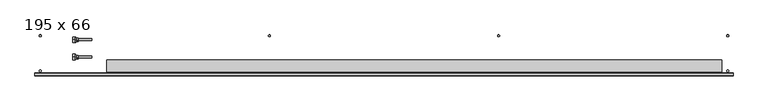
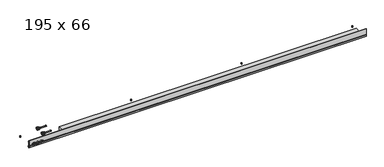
"""IFC4 building model written with IfcOpenShell, lengths in millimetres: proxy geometry, Mohlenhof_Внутрипольный конвектор_QSKM : 195 x 66."""

from ifc_helpers import new_model, si_unit, point, frame, frame_2d, origin, place, context, project, spatial, polyline, circle_curve, ellipse_curve, trimmed, segment, composite_curve, outline, extrude, source, transform, mapped, element, save
from ifc_brep_helpers import plane_surface, cylinder_surface, revolved_surface, advanced_brep


def proxy_195_x_66_55b345ae(model_context):
    return source(origin(), model_context, "Body", "SolidModel", [
        extrude(outline(composite_curve([segment(trimmed(circle_curve(frame_2d((-491.6666667, -273.5)), 4.5), [point((-496.1666667, -273.5))], [point((-487.1666667, -273.5))], False, "CARTESIAN"), True, "CONTINUOUS"), segment(trimmed(circle_curve(frame_2d((-491.6666667, -273.5)), 4.5), [point((-487.1666667, -273.5))], [point((-496.1666667, -273.5))], False, "CARTESIAN"), True, "CONTINUOUS")], self_intersect=False)), frame((0.0, 0.0, -79.0), z_axis=(0.0, 0.0, 1.0), x_axis=(1.0, 0.0, 0.0)), (0.0, 0.0, 1.0), 7.0),
        extrude(outline(composite_curve([segment(trimmed(circle_curve(frame_2d((-491.6666667, -273.5)), 4.0), [point((-495.6666667, -273.5))], [point((-487.6666667, -273.5))], False, "CARTESIAN"), True, "CONTINUOUS"), segment(trimmed(circle_curve(frame_2d((-491.6666667, -273.5)), 4.0), [point((-487.6666667, -273.5))], [point((-495.6666667, -273.5))], False, "CARTESIAN"), True, "CONTINUOUS")], self_intersect=False)), frame((0.0, 0.0, -72.0), z_axis=(0.0, 0.0, 1.0), x_axis=(1.0, 0.0, 0.0)), (0.0, 0.0, 1.0), 1.5),
        extrude(outline(composite_curve([segment(trimmed(circle_curve(frame_2d((491.6666667, -273.5)), 4.5), [point((487.1666667, -273.5))], [point((496.1666667, -273.5))], False, "CARTESIAN"), True, "CONTINUOUS"), segment(trimmed(circle_curve(frame_2d((491.6666667, -273.5)), 4.5), [point((496.1666667, -273.5))], [point((487.1666667, -273.5))], False, "CARTESIAN"), True, "CONTINUOUS")], self_intersect=False)), frame((0.0, 0.0, -79.0), z_axis=(0.0, 0.0, 1.0), x_axis=(1.0, 0.0, 0.0)), (0.0, 0.0, 1.0), 7.0),
        extrude(outline(composite_curve([segment(trimmed(circle_curve(frame_2d((491.6666667, -273.5)), 4.0), [point((487.6666667, -273.5))], [point((495.6666667, -273.5))], False, "CARTESIAN"), True, "CONTINUOUS"), segment(trimmed(circle_curve(frame_2d((491.6666667, -273.5)), 4.0), [point((495.6666667, -273.5))], [point((487.6666667, -273.5))], False, "CARTESIAN"), True, "CONTINUOUS")], self_intersect=False)), frame((0.0, 0.0, -72.0), z_axis=(0.0, 0.0, 1.0), x_axis=(1.0, 0.0, 0.0)), (0.0, 0.0, 1.0), 1.5),
        extrude(outline(composite_curve([segment(trimmed(circle_curve(frame_2d((-491.6666667, -121.5)), 4.5), [point((-496.1666667, -121.5))], [point((-487.1666667, -121.5))], False, "CARTESIAN"), True, "CONTINUOUS"), segment(trimmed(circle_curve(frame_2d((-491.6666667, -121.5)), 4.5), [point((-487.1666667, -121.5))], [point((-496.1666667, -121.5))], False, "CARTESIAN"), True, "CONTINUOUS")], self_intersect=False)), frame((0.0, 0.0, -79.0), z_axis=(0.0, 0.0, 1.0), x_axis=(1.0, 0.0, 0.0)), (0.0, 0.0, 1.0), 7.0),
        extrude(outline(composite_curve([segment(trimmed(circle_curve(frame_2d((-491.6666667, -121.5)), 4.0), [point((-495.6666667, -121.5))], [point((-487.6666667, -121.5))], False, "CARTESIAN"), True, "CONTINUOUS"), segment(trimmed(circle_curve(frame_2d((-491.6666667, -121.5)), 4.0), [point((-487.6666667, -121.5))], [point((-495.6666667, -121.5))], False, "CARTESIAN"), True, "CONTINUOUS")], self_intersect=False)), frame((0.0, 0.0, -72.0), z_axis=(0.0, 0.0, 1.0), x_axis=(1.0, 0.0, 0.0)), (0.0, 0.0, 1.0), 1.5),
        extrude(outline(composite_curve([segment(trimmed(circle_curve(frame_2d((491.6666667, -121.5)), 4.5), [point((487.1666667, -121.5))], [point((496.1666667, -121.5))], False, "CARTESIAN"), True, "CONTINUOUS"), segment(trimmed(circle_curve(frame_2d((491.6666667, -121.5)), 4.5), [point((496.1666667, -121.5))], [point((487.1666667, -121.5))], False, "CARTESIAN"), True, "CONTINUOUS")], self_intersect=False)), frame((0.0, 0.0, -79.0), z_axis=(0.0, 0.0, 1.0), x_axis=(1.0, 0.0, 0.0)), (0.0, 0.0, 1.0), 7.0),
        extrude(outline(composite_curve([segment(trimmed(circle_curve(frame_2d((491.6666667, -121.5)), 4.0), [point((487.6666667, -121.5))], [point((495.6666667, -121.5))], False, "CARTESIAN"), True, "CONTINUOUS"), segment(trimmed(circle_curve(frame_2d((491.6666667, -121.5)), 4.0), [point((495.6666667, -121.5))], [point((487.6666667, -121.5))], False, "CARTESIAN"), True, "CONTINUOUS")], self_intersect=False)), frame((0.0, 0.0, -72.0), z_axis=(0.0, 0.0, 1.0), x_axis=(1.0, 0.0, 0.0)), (0.0, 0.0, 1.0), 1.5),
        advanced_brep(
        [(-1324.0, -213.0, -41.0), (-1324.0, -201.0, -41.0), (-1324.0, -225.0, -41.0), (-1311.5, -220.5, -41.0), (-1311.5, -205.5, -41.0), (-1311.5, -213.0, -41.0), (-1319.0, -220.5, -41.0), (-1319.0, -205.5, -41.0)],
        [
            (0, 1),
            (1, 2, circle_curve(frame((-1324.0, -213.0, -41.0), z_axis=(-1.0, 0.0, 0.0), x_axis=(0.0, 1.0, 0.0)), 12.0)),
            (2, 0),
            (2, 1, circle_curve(frame((-1324.0, -213.0, -41.0), z_axis=(-1.0, 0.0, 0.0), x_axis=(0.0, 1.0, 0.0)), 12.0)),
            (3, 4, circle_curve(frame((-1311.5, -213.0, -41.0), z_axis=(1.0, 0.0, 0.0), x_axis=(0.0, 1.0, 0.0)), 7.5)),
            (4, 5),
            (5, 3),
            (4, 3, circle_curve(frame((-1311.5, -213.0, -41.0), z_axis=(1.0, 0.0, 0.0), x_axis=(0.0, 1.0, 0.0)), 7.5)),
            (6, 7, circle_curve(frame((-1319.0, -213.0, -41.0), z_axis=(1.0, 0.0, 0.0), x_axis=(0.0, 1.0, 0.0)), 7.5)),
            (7, 4),
            (3, 6),
            (7, 6, circle_curve(frame((-1319.0, -213.0, -41.0), z_axis=(1.0, 0.0, 0.0), x_axis=(0.0, 1.0, 0.0)), 7.5)),
            (1, 7),
            (6, 2),
        ],
        [
            plane_surface(frame((-1324.0, -213.0, -41.0), z_axis=(-1.0, 0.0, 0.0), x_axis=(0.0, 1.0, 0.0))),
            plane_surface(frame((-1311.5, -213.0, -41.0), z_axis=(1.0, 0.0, 0.0), x_axis=(0.0, 1.0, 0.0))),
            cylinder_surface(frame((-1324.0, -213.0, -41.0), z_axis=(-1.0, 0.0, 0.0), x_axis=(0.0, 1.0, 0.0)), 7.5),
            revolved_surface(polyline([(-1319.0, -205.5, -41.0), (-1324.0, -201.0, -41.0)]), (-1324.0, -213.0, -41.0), (-1.0, 0.0, 0.0)),
        ],
        [
            (0, [[1, 2, 3]]),
            (0, [[-3, 4, -1]]),
            (1, [[5, 6, 7]]),
            (1, [[8, -7, -6]]),
            (2, [[9, 10, -5, 11]]),
            (2, [[12, -11, -8, -10]]),
            (3, [[-2, 13, -9, 14]]),
            (3, [[-4, -14, -12, -13]]),
        ],
    ),
        extrude(outline(polyline([(-213.0, -27.1435935), (-201.0, -34.0717968), (-201.0, -47.9282032), (-213.0, -54.8564065), (-225.0, -47.9282032), (-225.0, -34.0717968), (-213.0, -27.1435935)]), holes=[composite_curve([segment(trimmed(circle_curve(frame_2d((-213.0, -41.0)), 8.5), [point((-204.5, -41.0))], [point((-221.5, -41.0))], True, "CARTESIAN"), True, "CONTINUOUS"), segment(trimmed(circle_curve(frame_2d((-213.0, -41.0)), 8.5), [point((-221.5, -41.0))], [point((-204.5, -41.0))], True, "CARTESIAN"), True, "CONTINUOUS")], self_intersect=False)]), frame((-1335.0, 0.0, 0.0), z_axis=(1.0, 0.0, 0.0), x_axis=(0.0, 1.0, 0.0)), (0.0, 0.0, 1.0), 11.0),
        advanced_brep(
        [(-1324.0, -138.0, -41.0), (-1324.0, -126.0, -41.0), (-1324.0, -150.0, -41.0), (-1311.5, -145.5, -41.0), (-1311.5, -130.5, -41.0), (-1311.5, -138.0, -41.0), (-1319.0, -145.5, -41.0), (-1319.0, -130.5, -41.0)],
        [
            (0, 1),
            (1, 2, circle_curve(frame((-1324.0, -138.0, -41.0), z_axis=(-1.0, 0.0, 0.0), x_axis=(0.0, 1.0, 0.0)), 12.0)),
            (2, 0),
            (2, 1, circle_curve(frame((-1324.0, -138.0, -41.0), z_axis=(-1.0, 0.0, 0.0), x_axis=(0.0, 1.0, 0.0)), 12.0)),
            (3, 4, circle_curve(frame((-1311.5, -138.0, -41.0), z_axis=(1.0, 0.0, 0.0), x_axis=(0.0, 1.0, 0.0)), 7.5)),
            (4, 5),
            (5, 3),
            (4, 3, circle_curve(frame((-1311.5, -138.0, -41.0), z_axis=(1.0, 0.0, 0.0), x_axis=(0.0, 1.0, 0.0)), 7.5)),
            (6, 7, circle_curve(frame((-1319.0, -138.0, -41.0), z_axis=(1.0, 0.0, 0.0), x_axis=(0.0, 1.0, 0.0)), 7.5)),
            (7, 4),
            (3, 6),
            (7, 6, circle_curve(frame((-1319.0, -138.0, -41.0), z_axis=(1.0, 0.0, 0.0), x_axis=(0.0, 1.0, 0.0)), 7.5)),
            (1, 7),
            (6, 2),
        ],
        [
            plane_surface(frame((-1324.0, -138.0, -41.0), z_axis=(-1.0, 0.0, 0.0), x_axis=(0.0, 1.0, 0.0))),
            plane_surface(frame((-1311.5, -138.0, -41.0), z_axis=(1.0, 0.0, 0.0), x_axis=(0.0, 1.0, 0.0))),
            cylinder_surface(frame((-1324.0, -138.0, -41.0), z_axis=(-1.0, 0.0, 0.0), x_axis=(0.0, 1.0, 0.0)), 7.5),
            revolved_surface(polyline([(-1319.0, -130.5, -41.0), (-1324.0, -126.0, -41.0)]), (-1324.0, -138.0, -41.0), (-1.0, 0.0, 0.0)),
        ],
        [
            (0, [[1, 2, 3]]),
            (0, [[-3, 4, -1]]),
            (1, [[5, 6, 7]]),
            (1, [[8, -7, -6]]),
            (2, [[9, 10, -5, 11]]),
            (2, [[12, -11, -8, -10]]),
            (3, [[-2, 13, -9, 14]]),
            (3, [[-4, -14, -12, -13]]),
        ],
    ),
        extrude(outline(polyline([(-138.0, -27.1435935), (-126.0, -34.0717968), (-126.0, -47.9282032), (-138.0, -54.8564065), (-150.0, -47.9282032), (-150.0, -34.0717968), (-138.0, -27.1435935)]), holes=[composite_curve([segment(trimmed(circle_curve(frame_2d((-138.0, -41.0)), 8.5), [point((-129.5, -41.0))], [point((-146.5, -41.0))], True, "CARTESIAN"), True, "CONTINUOUS"), segment(trimmed(circle_curve(frame_2d((-138.0, -41.0)), 8.5), [point((-146.5, -41.0))], [point((-129.5, -41.0))], True, "CARTESIAN"), True, "CONTINUOUS")], self_intersect=False)]), frame((-1335.0, 0.0, 0.0), z_axis=(1.0, 0.0, 0.0), x_axis=(0.0, 1.0, 0.0)), (0.0, 0.0, 1.0), 11.0),
        extrude(outline(composite_curve([segment(trimmed(circle_curve(frame_2d((-1475.0, -273.5)), 4.5), [point((-1479.5, -273.5))], [point((-1470.5, -273.5))], False, "CARTESIAN"), True, "CONTINUOUS"), segment(trimmed(circle_curve(frame_2d((-1475.0, -273.5)), 4.5), [point((-1470.5, -273.5))], [point((-1479.5, -273.5))], False, "CARTESIAN"), True, "CONTINUOUS")], self_intersect=False)), frame((0.0, 0.0, -79.0), z_axis=(0.0, 0.0, 1.0), x_axis=(1.0, 0.0, 0.0)), (0.0, 0.0, 1.0), 7.0),
        extrude(outline(composite_curve([segment(trimmed(circle_curve(frame_2d((-1475.0, -273.5)), 4.0), [point((-1479.0, -273.5))], [point((-1471.0, -273.5))], False, "CARTESIAN"), True, "CONTINUOUS"), segment(trimmed(circle_curve(frame_2d((-1475.0, -273.5)), 4.0), [point((-1471.0, -273.5))], [point((-1479.0, -273.5))], False, "CARTESIAN"), True, "CONTINUOUS")], self_intersect=False)), frame((0.0, 0.0, -72.0), z_axis=(0.0, 0.0, 1.0), x_axis=(1.0, 0.0, 0.0)), (0.0, 0.0, 1.0), 1.5),
        extrude(outline(composite_curve([segment(trimmed(circle_curve(frame_2d((-1475.0, -121.5)), 4.5), [point((-1479.5, -121.5))], [point((-1470.5, -121.5))], False, "CARTESIAN"), True, "CONTINUOUS"), segment(trimmed(circle_curve(frame_2d((-1475.0, -121.5)), 4.5), [point((-1470.5, -121.5))], [point((-1479.5, -121.5))], False, "CARTESIAN"), True, "CONTINUOUS")], self_intersect=False)), frame((0.0, 0.0, -79.0), z_axis=(0.0, 0.0, 1.0), x_axis=(1.0, 0.0, 0.0)), (0.0, 0.0, 1.0), 7.0),
        extrude(outline(composite_curve([segment(trimmed(circle_curve(frame_2d((-1475.0, -121.5)), 4.0), [point((-1479.0, -121.5))], [point((-1471.0, -121.5))], False, "CARTESIAN"), True, "CONTINUOUS"), segment(trimmed(circle_curve(frame_2d((-1475.0, -121.5)), 4.0), [point((-1471.0, -121.5))], [point((-1479.0, -121.5))], False, "CARTESIAN"), True, "CONTINUOUS")], self_intersect=False)), frame((0.0, 0.0, -72.0), z_axis=(0.0, 0.0, 1.0), x_axis=(1.0, 0.0, 0.0)), (0.0, 0.0, 1.0), 1.5),
        extrude(outline(composite_curve([segment(trimmed(circle_curve(frame_2d((1475.0, -273.5)), 4.5), [point((1470.5, -273.5))], [point((1479.5, -273.5))], False, "CARTESIAN"), True, "CONTINUOUS"), segment(trimmed(circle_curve(frame_2d((1475.0, -273.5)), 4.5), [point((1479.5, -273.5))], [point((1470.5, -273.5))], False, "CARTESIAN"), True, "CONTINUOUS")], self_intersect=False)), frame((0.0, 0.0, -79.0), z_axis=(0.0, 0.0, 1.0), x_axis=(1.0, 0.0, 0.0)), (0.0, 0.0, 1.0), 7.0),
        extrude(outline(composite_curve([segment(trimmed(circle_curve(frame_2d((1475.0, -273.5)), 4.0), [point((1471.0, -273.5))], [point((1479.0, -273.5))], False, "CARTESIAN"), True, "CONTINUOUS"), segment(trimmed(circle_curve(frame_2d((1475.0, -273.5)), 4.0), [point((1479.0, -273.5))], [point((1471.0, -273.5))], False, "CARTESIAN"), True, "CONTINUOUS")], self_intersect=False)), frame((0.0, 0.0, -72.0), z_axis=(0.0, 0.0, 1.0), x_axis=(1.0, 0.0, 0.0)), (0.0, 0.0, 1.0), 1.5),
        extrude(outline(composite_curve([segment(trimmed(circle_curve(frame_2d((1475.0, -121.5)), 4.5), [point((1470.5, -121.5))], [point((1479.5, -121.5))], False, "CARTESIAN"), True, "CONTINUOUS"), segment(trimmed(circle_curve(frame_2d((1475.0, -121.5)), 4.5), [point((1479.5, -121.5))], [point((1470.5, -121.5))], False, "CARTESIAN"), True, "CONTINUOUS")], self_intersect=False)), frame((0.0, 0.0, -79.0), z_axis=(0.0, 0.0, 1.0), x_axis=(1.0, 0.0, 0.0)), (0.0, 0.0, 1.0), 7.0),
        extrude(outline(composite_curve([segment(trimmed(circle_curve(frame_2d((1475.0, -121.5)), 4.0), [point((1471.0, -121.5))], [point((1479.0, -121.5))], False, "CARTESIAN"), True, "CONTINUOUS"), segment(trimmed(circle_curve(frame_2d((1475.0, -121.5)), 4.0), [point((1479.0, -121.5))], [point((1471.0, -121.5))], False, "CARTESIAN"), True, "CONTINUOUS")], self_intersect=False)), frame((0.0, 0.0, -72.0), z_axis=(0.0, 0.0, 1.0), x_axis=(1.0, 0.0, 0.0)), (0.0, 0.0, 1.0), 1.5),
        extrude(outline(polyline([(1450.0, -225.87), (1450.0, -277.18), (-1190.0, -277.18), (-1190.0, -225.87), (1450.0, -225.87)])), frame((0.0, 0.0, -62.5), z_axis=(0.0, 0.0, 1.0), x_axis=(1.0, 0.0, 0.0)), (0.0, 0.0, 1.0), 43.62),
        extrude(outline(composite_curve([segment(trimmed(circle_curve(frame_2d((-213.0, -41.0)), 5.0), [point((-218.0, -41.0))], [point((-208.0, -41.0))], False, "CARTESIAN"), True, "CONTINUOUS"), segment(trimmed(circle_curve(frame_2d((-213.0, -41.0)), 5.0), [point((-208.0, -41.0))], [point((-218.0, -41.0))], False, "CARTESIAN"), True, "CONTINUOUS")], self_intersect=False)), frame((-1335.0, 0.0, 0.0), z_axis=(1.0, 0.0, 0.0), x_axis=(0.0, 1.0, 0.0)), (0.0, 0.0, 1.0), 80.0),
        extrude(outline(composite_curve([segment(trimmed(circle_curve(frame_2d((-138.0, -41.0)), 5.0), [point((-143.0, -41.0))], [point((-133.0, -41.0))], False, "CARTESIAN"), True, "CONTINUOUS"), segment(trimmed(circle_curve(frame_2d((-138.0, -41.0)), 5.0), [point((-133.0, -41.0))], [point((-143.0, -41.0))], False, "CARTESIAN"), True, "CONTINUOUS")], self_intersect=False)), frame((-1335.0, 0.0, 0.0), z_axis=(1.0, 0.0, 0.0), x_axis=(0.0, 1.0, 0.0)), (0.0, 0.0, 1.0), 80.0),
        advanced_brep(
        [(1498.0, -295.0, -48.5473602), (1498.0, -293.5, -49.2468216), (1498.0, -292.5, -49.2468216), (1498.0, -292.5, -46.0008038), (1498.0, -290.0, -46.0008038), (1498.0, -290.0, -56.5008038), (1498.0, -292.5, -56.5008038), (1498.0, -292.5, -53.2468216), (1498.0, -293.5, -53.2468216), (1498.0, -295.0, -53.9462831), (1498.0, -295.0, -66.5), (1498.0, -291.0, -66.5), (1498.0, -291.0, -65.2), (1498.0, -293.0, -65.2), (1498.0, -293.0, -62.5), (1498.0, -282.0, -62.5), (1498.0, -282.0, -54.9172677), (1498.0, -283.4172677, -53.5), (1498.0, -287.0, -53.5), (1498.0, -287.0, -45.91), (1498.0, -289.0, -43.91), (1498.0, -289.0, -39.5), (1498.0, -290.0, -39.5), (1498.0, -290.0, -43.5), (1498.0, -292.4956439, -43.5), (1498.0, -292.4956439, -23.0), (1498.0, -290.0, -23.0), (1498.0, -290.0, -27.0), (1498.0, -289.0, -27.0), (1498.0, -289.0, -17.0), (1498.0, -283.3956439, -17.0), (1498.0, -283.3956439, -15.0), (1498.0, -293.4, -15.0), (1498.0, -293.4, 0.0), (1498.0, -295.0, 0.0), (-1498.0, -295.0, -48.5473602), (-1498.0, -295.0, 0.0), (-1498.0, -293.4, 0.0), (-1498.0, -293.4, -15.0), (-1498.0, -283.3956439, -15.0), (-1498.0, -283.3956439, -17.0), (-1498.0, -289.0, -17.0), (-1498.0, -289.0, -27.0), (-1498.0, -290.0, -27.0), (-1498.0, -290.0, -23.0), (-1498.0, -292.4956439, -23.0), (-1498.0, -292.4956439, -43.5), (-1498.0, -290.0, -43.5), (-1498.0, -290.0, -39.5), (-1498.0, -289.0, -39.5), (-1498.0, -289.0, -43.91), (-1498.0, -287.0, -45.91), (-1498.0, -287.0, -53.5), (-1498.0, -283.4172677, -53.5), (-1498.0, -282.0, -54.9172677), (-1498.0, -282.0, -62.5), (-1498.0, -293.0, -62.5), (-1498.0, -293.0, -65.2), (-1498.0, -291.0, -65.2), (-1498.0, -291.0, -66.5), (-1498.0, -295.0, -66.5), (-1498.0, -295.0, -53.9462831), (-1498.0, -293.5, -53.2468216), (-1498.0, -292.5, -53.2468216), (-1498.0, -292.5, -56.5008038), (-1498.0, -290.0, -56.5008038), (-1498.0, -290.0, -46.0008038), (-1498.0, -292.5, -46.0008038), (-1498.0, -292.5, -49.2468216), (-1498.0, -293.5, -49.2468216), (-1378.7585985, -295.0, -48.5473602), (-1379.155283, -293.5, -49.2468216), (-1470.844717, -293.5, -49.2468216), (-1471.2414015, -295.0, -48.5473602), (-1438.2414015, -295.0, -48.5473602), (-1444.7585985, -295.0, -48.5473602), (-1445.155283, -293.5, -49.2468216), (-1437.844717, -293.5, -49.2468216), (-1405.2414015, -295.0, -48.5473602), (-1411.7585985, -295.0, -48.5473602), (-1412.155283, -293.5, -49.2468216), (-1404.844717, -293.5, -49.2468216), (-1379.155283, -292.5, -49.2468216), (-1470.844717, -292.5, -49.2468216), (-1445.155283, -292.5, -49.2468216), (-1437.844717, -292.5, -49.2468216), (-1412.155283, -292.5, -49.2468216), (-1404.844717, -292.5, -49.2468216), (-1377.6911648, -292.5, -46.0008038), (-1472.3088352, -292.5, -46.0008038), (-1443.6911648, -292.5, -46.0008038), (-1439.3088352, -292.5, -46.0008038), (-1410.6911648, -292.5, -46.0008038), (-1406.3088352, -292.5, -46.0008038), (-1377.6911648, -290.0, -46.0008038), (-1472.3088352, -290.0, -46.0008038), (-1443.6911648, -290.0, -46.0008038), (-1439.3088352, -290.0, -46.0008038), (-1410.6911648, -290.0, -46.0008038), (-1406.3088352, -290.0, -46.0008038), (-1467.328032, -292.5, -53.2468216), (-1448.671968, -292.5, -53.2468216), (-1434.328032, -292.5, -53.2468216), (-1415.671968, -292.5, -53.2468216), (-1401.328032, -292.5, -53.2468216), (-1382.671968, -292.5, -53.2468216), (-1382.671968, -293.5, -53.2468216), (-1467.328032, -293.5, -53.2468216), (-1448.671968, -293.5, -53.2468216), (-1434.328032, -293.5, -53.2468216), (-1415.671968, -293.5, -53.2468216), (-1401.328032, -293.5, -53.2468216), (-1383.6280208, -295.0, -53.9462831), (-1466.3719792, -295.0, -53.9462831), (-1449.6280208, -295.0, -53.9462831), (-1433.3719792, -295.0, -53.9462831), (-1416.6280208, -295.0, -53.9462831), (-1400.3719792, -295.0, -53.9462831), (-1464.7064841, -282.0, -54.9172677), (-1451.2935159, -282.0, -54.9172677), (-1431.7064841, -282.0, -54.9172677), (-1418.2935159, -282.0, -54.9172677), (-1398.7064841, -282.0, -54.9172677), (-1385.2935159, -282.0, -54.9172677), (-1383.0, -283.4172677, -53.5), (-1467.0, -283.4172677, -53.5), (-1449.0, -283.4172677, -53.5), (-1434.0, -283.4172677, -53.5), (-1416.0, -283.4172677, -53.5), (-1401.0, -283.4172677, -53.5), (-1383.0, -287.0, -53.5), (-1467.0, -287.0, -53.5), (-1449.0, -287.0, -53.5), (-1434.0, -287.0, -53.5), (-1416.0, -287.0, -53.5), (-1401.0, -287.0, -53.5), (-1377.6629187, -287.0, -45.91), (-1472.3370813, -287.0, -45.91), (-1443.6629187, -287.0, -45.91), (-1439.3370813, -287.0, -45.91), (-1410.6629187, -287.0, -45.91), (-1406.3370813, -287.0, -45.91), (-1377.1948691, -289.0, -43.91), (-1472.8051309, -289.0, -43.91), (-1443.1948691, -289.0, -43.91), (-1439.8051309, -289.0, -43.91), (-1410.1948691, -289.0, -43.91), (-1406.8051309, -289.0, -43.91), (-1377.0, -289.0, -41.5), (-1377.1339313, -289.0, -39.5), (-1472.8660687, -289.0, -39.5), (-1473.0, -289.0, -41.5), (-1443.0, -289.0, -41.5), (-1443.1339313, -289.0, -39.5), (-1439.8660687, -289.0, -39.5), (-1440.0, -289.0, -41.5), (-1410.0, -289.0, -41.5), (-1410.1339313, -289.0, -39.5), (-1406.8660687, -289.0, -39.5), (-1407.0, -289.0, -41.5), (-1377.1339313, -290.0, -39.5), (-1472.8660687, -290.0, -39.5), (-1443.1339313, -290.0, -39.5), (-1439.8660687, -290.0, -39.5), (-1410.1339313, -290.0, -39.5), (-1406.8660687, -290.0, -39.5), (-1377.0, -290.0, -41.5), (-1377.1339313, -290.0, -43.5), (-1472.8660687, -290.0, -43.5), (-1473.0, -290.0, -41.5), (-1443.0, -290.0, -41.5), (-1443.1339313, -290.0, -43.5), (-1439.8660687, -290.0, -43.5), (-1440.0, -290.0, -41.5), (-1410.0, -290.0, -41.5), (-1410.1339313, -290.0, -43.5), (-1406.8660687, -290.0, -43.5), (-1407.0, -290.0, -41.5), (-1377.1339313, -292.4956439, -43.5), (-1472.8660687, -292.4956439, -43.5), (-1443.1339313, -292.4956439, -43.5), (-1439.8660687, -292.4956439, -43.5), (-1410.1339313, -292.4956439, -43.5), (-1406.8660687, -292.4956439, -43.5), (-1377.0, -292.4956439, -41.5), (-1407.0, -292.4956439, -41.5), (-1410.0, -292.4956439, -41.5), (-1440.0, -292.4956439, -41.5), (-1443.0, -292.4956439, -41.5), (-1473.0, -292.4956439, -41.5), (-1461.8405729, -290.0, -27.0), (-1454.1594271, -290.0, -27.0), (-1428.8405729, -290.0, -27.0), (-1421.1594271, -290.0, -27.0), (-1395.8405729, -290.0, -27.0), (-1388.1594271, -290.0, -27.0), (-1388.1594271, -289.0, -27.0), (-1461.8405729, -289.0, -27.0), (-1454.1594271, -289.0, -27.0), (-1428.8405729, -289.0, -27.0), (-1421.1594271, -289.0, -27.0), (-1395.8405729, -289.0, -27.0), (-1473.0, -295.0, -41.5), (-1443.0, -295.0, -41.5), (-1440.0, -295.0, -41.5), (-1410.0, -295.0, -41.5), (-1407.0, -295.0, -41.5), (-1377.0, -295.0, -41.5)],
        [
            (0, 1),
            (1, 2),
            (2, 3),
            (3, 4),
            (4, 5),
            (5, 6),
            (6, 7),
            (7, 8),
            (8, 9),
            (9, 10),
            (10, 11),
            (11, 12),
            (12, 13),
            (13, 14),
            (14, 15),
            (15, 16),
            (16, 17),
            (17, 18),
            (18, 19),
            (19, 20),
            (20, 21),
            (21, 22),
            (22, 23),
            (23, 24),
            (24, 25),
            (25, 26),
            (26, 27),
            (27, 28),
            (28, 29),
            (29, 30),
            (30, 31),
            (31, 32),
            (32, 33),
            (33, 34),
            (34, 0),
            (35, 36),
            (36, 37),
            (37, 38),
            (38, 39),
            (39, 40),
            (40, 41),
            (41, 42),
            (42, 43),
            (43, 44),
            (44, 45),
            (45, 46),
            (46, 47),
            (47, 48),
            (48, 49),
            (49, 50),
            (50, 51),
            (51, 52),
            (52, 53),
            (53, 54),
            (54, 55),
            (55, 56),
            (56, 57),
            (57, 58),
            (58, 59),
            (59, 60),
            (60, 61),
            (61, 62),
            (62, 63),
            (63, 64),
            (64, 65),
            (65, 66),
            (66, 67),
            (67, 68),
            (68, 69),
            (69, 35),
            (0, 70),
            (70, 71, ellipse_curve(frame((-1392.0, -310.1131126, -41.5), z_axis=(0.0, 0.42261826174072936, 0.9063077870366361), x_axis=(0.0, -0.906307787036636, 0.4226182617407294)), 35.4930237, 15.0)),
            (71, 1),
            (69, 72),
            (72, 73, ellipse_curve(frame((-1458.0, -310.1131126, -41.5), z_axis=(0.0, 0.42261826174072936, 0.9063077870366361), x_axis=(0.0, -0.906307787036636, 0.4226182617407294)), 35.4930237, 15.0)),
            (73, 35),
            (74, 75),
            (75, 76, ellipse_curve(frame((-1458.0, -310.1131126, -41.5), z_axis=(0.0, 0.42261826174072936, 0.9063077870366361), x_axis=(0.0, -0.906307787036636, 0.4226182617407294)), 35.4930237, 15.0)),
            (76, 77),
            (77, 74, ellipse_curve(frame((-1425.0, -310.1131126, -41.5), z_axis=(0.0, 0.42261826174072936, 0.9063077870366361), x_axis=(0.0, -0.906307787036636, 0.4226182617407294)), 35.4930237, 15.0)),
            (78, 79),
            (79, 80, ellipse_curve(frame((-1425.0, -310.1131126, -41.5), z_axis=(0.0, 0.42261826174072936, 0.9063077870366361), x_axis=(0.0, -0.906307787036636, 0.4226182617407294)), 35.4930237, 15.0)),
            (80, 81),
            (81, 78, ellipse_curve(frame((-1392.0, -310.1131126, -41.5), z_axis=(0.0, 0.42261826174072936, 0.9063077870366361), x_axis=(0.0, -0.906307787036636, 0.4226182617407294)), 35.4930237, 15.0)),
            (71, 82),
            (82, 2),
            (68, 83),
            (83, 72),
            (76, 84),
            (84, 85),
            (85, 77),
            (80, 86),
            (86, 87),
            (87, 81),
            (82, 88, circle_curve(frame((-1392.0, -292.5, -41.5), z_axis=(0.0, -1.0, 0.0), x_axis=(1.0, 0.0, 0.0)), 15.0)),
            (88, 3),
            (67, 89),
            (89, 83, circle_curve(frame((-1458.0, -292.5, -41.5), z_axis=(0.0, -1.0, 0.0), x_axis=(1.0, 0.0, 0.0)), 15.0)),
            (84, 90, circle_curve(frame((-1458.0, -292.5, -41.5), z_axis=(0.0, -1.0, 0.0), x_axis=(1.0, 0.0, 0.0)), 15.0)),
            (90, 91),
            (91, 85, circle_curve(frame((-1425.0, -292.5, -41.5), z_axis=(0.0, -1.0, 0.0), x_axis=(1.0, 0.0, 0.0)), 15.0)),
            (86, 92, circle_curve(frame((-1425.0, -292.5, -41.5), z_axis=(0.0, -1.0, 0.0), x_axis=(1.0, 0.0, 0.0)), 15.0)),
            (92, 93),
            (93, 87, circle_curve(frame((-1392.0, -292.5, -41.5), z_axis=(0.0, -1.0, 0.0), x_axis=(1.0, 0.0, 0.0)), 15.0)),
            (88, 94),
            (94, 4),
            (66, 95),
            (95, 89),
            (90, 96),
            (96, 97),
            (97, 91),
            (92, 98),
            (98, 99),
            (99, 93),
            (94, 99, circle_curve(frame((-1392.0, -290.0, -41.5), z_axis=(0.0, 1.0, 0.0), x_axis=(1.0, 0.0, 0.0)), 15.0)),
            (98, 97, circle_curve(frame((-1425.0, -290.0, -41.5), z_axis=(0.0, 1.0, 0.0), x_axis=(1.0, 0.0, 0.0)), 15.0)),
            (96, 95, circle_curve(frame((-1458.0, -290.0, -41.5), z_axis=(0.0, 1.0, 0.0), x_axis=(1.0, 0.0, 0.0)), 15.0)),
            (65, 5),
            (64, 6),
            (63, 100),
            (100, 101, circle_curve(frame((-1458.0, -292.5, -41.5), z_axis=(0.0, -1.0, 0.0), x_axis=(1.0, 0.0, 0.0)), 15.0)),
            (101, 102),
            (102, 103, circle_curve(frame((-1425.0, -292.5, -41.5), z_axis=(0.0, -1.0, 0.0), x_axis=(1.0, 0.0, 0.0)), 15.0)),
            (103, 104),
            (104, 105, circle_curve(frame((-1392.0, -292.5, -41.5), z_axis=(0.0, -1.0, 0.0), x_axis=(1.0, 0.0, 0.0)), 15.0)),
            (105, 7),
            (105, 106),
            (106, 8),
            (62, 107),
            (107, 100),
            (101, 108),
            (108, 109),
            (109, 102),
            (103, 110),
            (110, 111),
            (111, 104),
            (106, 112, ellipse_curve(frame((-1392.0, -268.3088597, -41.5), z_axis=(0.0, 0.4226182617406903, -0.9063077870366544), x_axis=(0.0, -0.9063077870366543, -0.42261826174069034)), 35.4930237, 15.0)),
            (112, 9),
            (61, 113),
            (113, 107, ellipse_curve(frame((-1458.0, -268.3088597, -41.5), z_axis=(0.0, 0.4226182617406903, -0.9063077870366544), x_axis=(0.0, -0.9063077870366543, -0.42261826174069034)), 35.4930237, 15.0)),
            (108, 114, ellipse_curve(frame((-1458.0, -268.3088597, -41.5), z_axis=(0.0, 0.4226182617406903, -0.9063077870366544), x_axis=(0.0, -0.9063077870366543, -0.42261826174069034)), 35.4930237, 15.0)),
            (114, 115),
            (115, 109, ellipse_curve(frame((-1425.0, -268.3088597, -41.5), z_axis=(0.0, 0.4226182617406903, -0.9063077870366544), x_axis=(0.0, -0.9063077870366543, -0.42261826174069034)), 35.4930237, 15.0)),
            (110, 116, ellipse_curve(frame((-1425.0, -268.3088597, -41.5), z_axis=(0.0, 0.4226182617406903, -0.9063077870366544), x_axis=(0.0, -0.9063077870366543, -0.42261826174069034)), 35.4930237, 15.0)),
            (116, 117),
            (117, 111, ellipse_curve(frame((-1392.0, -268.3088597, -41.5), z_axis=(0.0, 0.4226182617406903, -0.9063077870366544), x_axis=(0.0, -0.9063077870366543, -0.42261826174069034)), 35.4930237, 15.0)),
            (112, 117, circle_curve(frame((-1392.0, -295.0, -41.5), z_axis=(0.0, 1.0, 0.0), x_axis=(1.0, 0.0, 0.0)), 15.0)),
            (116, 115, circle_curve(frame((-1425.0, -295.0, -41.5), z_axis=(0.0, 1.0, 0.0), x_axis=(1.0, 0.0, 0.0)), 15.0)),
            (114, 113, circle_curve(frame((-1458.0, -295.0, -41.5), z_axis=(0.0, 1.0, 0.0), x_axis=(1.0, 0.0, 0.0)), 15.0)),
            (60, 10),
            (59, 11),
            (58, 12),
            (57, 13),
            (56, 14),
            (55, 15),
            (54, 118),
            (118, 119, circle_curve(frame((-1458.0, -282.0, -41.5), z_axis=(0.0, -1.0, 0.0), x_axis=(1.0, 0.0, 0.0)), 15.0)),
            (119, 120),
            (120, 121, circle_curve(frame((-1425.0, -282.0, -41.5), z_axis=(0.0, -1.0, 0.0), x_axis=(1.0, 0.0, 0.0)), 15.0)),
            (121, 122),
            (122, 123, circle_curve(frame((-1392.0, -282.0, -41.5), z_axis=(0.0, -1.0, 0.0), x_axis=(1.0, 0.0, 0.0)), 15.0)),
            (123, 16),
            (123, 124, ellipse_curve(frame((-1392.0, -295.4172677, -41.5), z_axis=(0.0, -0.7071067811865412, -0.7071067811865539), x_axis=(0.0, -0.7071067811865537, 0.7071067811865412)), 21.2132034, 15.0)),
            (124, 17),
            (53, 125),
            (125, 118, ellipse_curve(frame((-1458.0, -295.4172677, -41.5), z_axis=(0.0, -0.7071067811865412, -0.7071067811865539), x_axis=(0.0, -0.7071067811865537, 0.7071067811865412)), 21.2132034, 15.0)),
            (119, 126, ellipse_curve(frame((-1458.0, -295.4172677, -41.5), z_axis=(0.0, -0.7071067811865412, -0.7071067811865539), x_axis=(0.0, -0.7071067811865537, 0.7071067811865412)), 21.2132034, 15.0)),
            (126, 127),
            (127, 120, ellipse_curve(frame((-1425.0, -295.4172677, -41.5), z_axis=(0.0, -0.7071067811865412, -0.7071067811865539), x_axis=(0.0, -0.7071067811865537, 0.7071067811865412)), 21.2132034, 15.0)),
            (121, 128, ellipse_curve(frame((-1425.0, -295.4172677, -41.5), z_axis=(0.0, -0.7071067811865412, -0.7071067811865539), x_axis=(0.0, -0.7071067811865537, 0.7071067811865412)), 21.2132034, 15.0)),
            (128, 129),
            (129, 122, ellipse_curve(frame((-1392.0, -295.4172677, -41.5), z_axis=(0.0, -0.7071067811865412, -0.7071067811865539), x_axis=(0.0, -0.7071067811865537, 0.7071067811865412)), 21.2132034, 15.0)),
            (124, 130),
            (130, 18),
            (52, 131),
            (131, 125),
            (126, 132),
            (132, 133),
            (133, 127),
            (128, 134),
            (134, 135),
            (135, 129),
            (130, 136, circle_curve(frame((-1392.0, -287.0, -41.5), z_axis=(0.0, -1.0, 0.0), x_axis=(1.0, 0.0, 0.0)), 15.0)),
            (136, 19),
            (51, 137),
            (137, 131, circle_curve(frame((-1458.0, -287.0, -41.5), z_axis=(0.0, -1.0, 0.0), x_axis=(1.0, 0.0, 0.0)), 15.0)),
            (132, 138, circle_curve(frame((-1458.0, -287.0, -41.5), z_axis=(0.0, -1.0, 0.0), x_axis=(1.0, 0.0, 0.0)), 15.0)),
            (138, 139),
            (139, 133, circle_curve(frame((-1425.0, -287.0, -41.5), z_axis=(0.0, -1.0, 0.0), x_axis=(1.0, 0.0, 0.0)), 15.0)),
            (134, 140, circle_curve(frame((-1425.0, -287.0, -41.5), z_axis=(0.0, -1.0, 0.0), x_axis=(1.0, 0.0, 0.0)), 15.0)),
            (140, 141),
            (141, 135, circle_curve(frame((-1392.0, -287.0, -41.5), z_axis=(0.0, -1.0, 0.0), x_axis=(1.0, 0.0, 0.0)), 15.0)),
            (136, 142, ellipse_curve(frame((-1392.0, -291.41, -41.5), z_axis=(0.0, -0.7071067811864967, -0.7071067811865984), x_axis=(0.0, -0.7071067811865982, 0.7071067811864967)), 21.2132034, 15.0)),
            (142, 20),
            (50, 143),
            (143, 137, ellipse_curve(frame((-1458.0, -291.41, -41.5), z_axis=(0.0, -0.7071067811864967, -0.7071067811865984), x_axis=(0.0, -0.7071067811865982, 0.7071067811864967)), 21.2132034, 15.0)),
            (138, 144, ellipse_curve(frame((-1458.0, -291.41, -41.5), z_axis=(0.0, -0.7071067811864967, -0.7071067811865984), x_axis=(0.0, -0.7071067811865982, 0.7071067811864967)), 21.2132034, 15.0)),
            (144, 145),
            (145, 139, ellipse_curve(frame((-1425.0, -291.41, -41.5), z_axis=(0.0, -0.7071067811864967, -0.7071067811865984), x_axis=(0.0, -0.7071067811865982, 0.7071067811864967)), 21.2132034, 15.0)),
            (140, 146, ellipse_curve(frame((-1425.0, -291.41, -41.5), z_axis=(0.0, -0.7071067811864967, -0.7071067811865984), x_axis=(0.0, -0.7071067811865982, 0.7071067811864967)), 21.2132034, 15.0)),
            (146, 147),
            (147, 141, ellipse_curve(frame((-1392.0, -291.41, -41.5), z_axis=(0.0, -0.7071067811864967, -0.7071067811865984), x_axis=(0.0, -0.7071067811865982, 0.7071067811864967)), 21.2132034, 15.0)),
            (142, 148, circle_curve(frame((-1392.0, -289.0, -41.5), z_axis=(0.0, -1.0, 0.0), x_axis=(1.0, 0.0, 0.0)), 15.0)),
            (148, 149, circle_curve(frame((-1392.0, -289.0, -41.5), z_axis=(0.0, -1.0, 0.0), x_axis=(1.0, 0.0, 0.0)), 15.0)),
            (149, 21),
            (49, 150),
            (150, 151, circle_curve(frame((-1458.0, -289.0, -41.5), z_axis=(0.0, -1.0, 0.0), x_axis=(1.0, 0.0, 0.0)), 15.0)),
            (151, 143, circle_curve(frame((-1458.0, -289.0, -41.5), z_axis=(0.0, -1.0, 0.0), x_axis=(1.0, 0.0, 0.0)), 15.0)),
            (144, 152, circle_curve(frame((-1458.0, -289.0, -41.5), z_axis=(0.0, -1.0, 0.0), x_axis=(1.0, 0.0, 0.0)), 15.0)),
            (152, 153, circle_curve(frame((-1458.0, -289.0, -41.5), z_axis=(0.0, -1.0, 0.0), x_axis=(1.0, 0.0, 0.0)), 15.0)),
            (153, 154),
            (154, 155, circle_curve(frame((-1425.0, -289.0, -41.5), z_axis=(0.0, -1.0, 0.0), x_axis=(1.0, 0.0, 0.0)), 15.0)),
            (155, 145, circle_curve(frame((-1425.0, -289.0, -41.5), z_axis=(0.0, -1.0, 0.0), x_axis=(1.0, 0.0, 0.0)), 15.0)),
            (146, 156, circle_curve(frame((-1425.0, -289.0, -41.5), z_axis=(0.0, -1.0, 0.0), x_axis=(1.0, 0.0, 0.0)), 15.0)),
            (156, 157, circle_curve(frame((-1425.0, -289.0, -41.5), z_axis=(0.0, -1.0, 0.0), x_axis=(1.0, 0.0, 0.0)), 15.0)),
            (157, 158),
            (158, 159, circle_curve(frame((-1392.0, -289.0, -41.5), z_axis=(0.0, -1.0, 0.0), x_axis=(1.0, 0.0, 0.0)), 15.0)),
            (159, 147, circle_curve(frame((-1392.0, -289.0, -41.5), z_axis=(0.0, -1.0, 0.0), x_axis=(1.0, 0.0, 0.0)), 15.0)),
            (149, 160),
            (160, 22),
            (48, 161),
            (161, 150),
            (153, 162),
            (162, 163),
            (163, 154),
            (157, 164),
            (164, 165),
            (165, 158),
            (160, 166, circle_curve(frame((-1392.0, -290.0, -41.5), z_axis=(0.0, 1.0, 0.0), x_axis=(1.0, 0.0, 0.0)), 15.0)),
            (166, 167, circle_curve(frame((-1392.0, -290.0, -41.5), z_axis=(0.0, 1.0, 0.0), x_axis=(1.0, 0.0, 0.0)), 15.0)),
            (167, 23),
            (47, 168),
            (168, 169, circle_curve(frame((-1458.0, -290.0, -41.5), z_axis=(0.0, 1.0, 0.0), x_axis=(1.0, 0.0, 0.0)), 15.0)),
            (169, 161, circle_curve(frame((-1458.0, -290.0, -41.5), z_axis=(0.0, 1.0, 0.0), x_axis=(1.0, 0.0, 0.0)), 15.0)),
            (162, 170, circle_curve(frame((-1458.0, -290.0, -41.5), z_axis=(0.0, 1.0, 0.0), x_axis=(1.0, 0.0, 0.0)), 15.0)),
            (170, 171, circle_curve(frame((-1458.0, -290.0, -41.5), z_axis=(0.0, 1.0, 0.0), x_axis=(1.0, 0.0, 0.0)), 15.0)),
            (171, 172),
            (172, 173, circle_curve(frame((-1425.0, -290.0, -41.5), z_axis=(0.0, 1.0, 0.0), x_axis=(1.0, 0.0, 0.0)), 15.0)),
            (173, 163, circle_curve(frame((-1425.0, -290.0, -41.5), z_axis=(0.0, 1.0, 0.0), x_axis=(1.0, 0.0, 0.0)), 15.0)),
            (164, 174, circle_curve(frame((-1425.0, -290.0, -41.5), z_axis=(0.0, 1.0, 0.0), x_axis=(1.0, 0.0, 0.0)), 15.0)),
            (174, 175, circle_curve(frame((-1425.0, -290.0, -41.5), z_axis=(0.0, 1.0, 0.0), x_axis=(1.0, 0.0, 0.0)), 15.0)),
            (175, 176),
            (176, 177, circle_curve(frame((-1392.0, -290.0, -41.5), z_axis=(0.0, 1.0, 0.0), x_axis=(1.0, 0.0, 0.0)), 15.0)),
            (177, 165, circle_curve(frame((-1392.0, -290.0, -41.5), z_axis=(0.0, 1.0, 0.0), x_axis=(1.0, 0.0, 0.0)), 15.0)),
            (167, 178),
            (178, 24),
            (46, 179),
            (179, 168),
            (171, 180),
            (180, 181),
            (181, 172),
            (175, 182),
            (182, 183),
            (183, 176),
            (178, 184, circle_curve(frame((-1392.0, -292.4956439, -41.5), z_axis=(0.0, -1.0, 0.0), x_axis=(1.0, 0.0, 0.0)), 15.0)),
            (184, 185, circle_curve(frame((-1392.0, -292.4956439, -41.5), z_axis=(0.0, -1.0, 0.0), x_axis=(1.0, 0.0, 0.0)), 15.0)),
            (185, 183, circle_curve(frame((-1392.0, -292.4956439, -41.5), z_axis=(0.0, -1.0, 0.0), x_axis=(1.0, 0.0, 0.0)), 15.0)),
            (182, 186, circle_curve(frame((-1425.0, -292.4956439, -41.5), z_axis=(0.0, -1.0, 0.0), x_axis=(1.0, 0.0, 0.0)), 15.0)),
            (186, 187, circle_curve(frame((-1425.0, -292.4956439, -41.5), z_axis=(0.0, -1.0, 0.0), x_axis=(1.0, 0.0, 0.0)), 15.0)),
            (187, 181, circle_curve(frame((-1425.0, -292.4956439, -41.5), z_axis=(0.0, -1.0, 0.0), x_axis=(1.0, 0.0, 0.0)), 15.0)),
            (180, 188, circle_curve(frame((-1458.0, -292.4956439, -41.5), z_axis=(0.0, -1.0, 0.0), x_axis=(1.0, 0.0, 0.0)), 15.0)),
            (188, 189, circle_curve(frame((-1458.0, -292.4956439, -41.5), z_axis=(0.0, -1.0, 0.0), x_axis=(1.0, 0.0, 0.0)), 15.0)),
            (189, 179, circle_curve(frame((-1458.0, -292.4956439, -41.5), z_axis=(0.0, -1.0, 0.0), x_axis=(1.0, 0.0, 0.0)), 15.0)),
            (45, 25),
            (44, 26),
            (43, 190),
            (190, 191, circle_curve(frame((-1458.0, -290.0, -41.5), z_axis=(0.0, 1.0, 0.0), x_axis=(1.0, 0.0, 0.0)), 15.0)),
            (191, 192),
            (192, 193, circle_curve(frame((-1425.0, -290.0, -41.5), z_axis=(0.0, 1.0, 0.0), x_axis=(1.0, 0.0, 0.0)), 15.0)),
            (193, 194),
            (194, 195, circle_curve(frame((-1392.0, -290.0, -41.5), z_axis=(0.0, 1.0, 0.0), x_axis=(1.0, 0.0, 0.0)), 15.0)),
            (195, 27),
            (195, 196),
            (196, 28),
            (42, 197),
            (197, 190),
            (191, 198),
            (198, 199),
            (199, 192),
            (193, 200),
            (200, 201),
            (201, 194),
            (196, 201, circle_curve(frame((-1392.0, -289.0, -41.5), z_axis=(0.0, -1.0, 0.0), x_axis=(1.0, 0.0, 0.0)), 15.0)),
            (200, 199, circle_curve(frame((-1425.0, -289.0, -41.5), z_axis=(0.0, -1.0, 0.0), x_axis=(1.0, 0.0, 0.0)), 15.0)),
            (198, 197, circle_curve(frame((-1458.0, -289.0, -41.5), z_axis=(0.0, -1.0, 0.0), x_axis=(1.0, 0.0, 0.0)), 15.0)),
            (41, 29),
            (40, 30),
            (39, 31),
            (38, 32),
            (37, 33),
            (36, 34),
            (73, 202, circle_curve(frame((-1458.0, -295.0, -41.5), z_axis=(0.0, 1.0, 0.0), x_axis=(1.0, 0.0, 0.0)), 15.0)),
            (202, 203, circle_curve(frame((-1458.0, -295.0, -41.5), z_axis=(0.0, 1.0, 0.0), x_axis=(1.0, 0.0, 0.0)), 15.0)),
            (203, 75, circle_curve(frame((-1458.0, -295.0, -41.5), z_axis=(0.0, 1.0, 0.0), x_axis=(1.0, 0.0, 0.0)), 15.0)),
            (74, 204, circle_curve(frame((-1425.0, -295.0, -41.5), z_axis=(0.0, 1.0, 0.0), x_axis=(1.0, 0.0, 0.0)), 15.0)),
            (204, 205, circle_curve(frame((-1425.0, -295.0, -41.5), z_axis=(0.0, 1.0, 0.0), x_axis=(1.0, 0.0, 0.0)), 15.0)),
            (205, 79, circle_curve(frame((-1425.0, -295.0, -41.5), z_axis=(0.0, 1.0, 0.0), x_axis=(1.0, 0.0, 0.0)), 15.0)),
            (78, 206, circle_curve(frame((-1392.0, -295.0, -41.5), z_axis=(0.0, 1.0, 0.0), x_axis=(1.0, 0.0, 0.0)), 15.0)),
            (206, 207, circle_curve(frame((-1392.0, -295.0, -41.5), z_axis=(0.0, 1.0, 0.0), x_axis=(1.0, 0.0, 0.0)), 15.0)),
            (207, 70, circle_curve(frame((-1392.0, -295.0, -41.5), z_axis=(0.0, 1.0, 0.0), x_axis=(1.0, 0.0, 0.0)), 15.0)),
            (151, 169),
            (189, 202),
            (203, 188),
            (170, 152),
            (155, 173),
            (187, 204),
            (205, 186),
            (174, 156),
            (159, 177),
            (185, 206),
            (207, 184),
            (166, 148),
        ],
        [
            plane_surface(frame((1498.0, -293.0, -62.5), z_axis=(1.0, 0.0, 0.0), x_axis=(0.0, 0.0, 1.0))),
            plane_surface(frame((-1498.0, -293.0, -62.5), z_axis=(-1.0, 0.0, 0.0), x_axis=(0.0, 0.0, 1.0))),
            plane_surface(frame((1498.0, -295.0, -48.5473602), z_axis=(0.0, -0.42261826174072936, -0.9063077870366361), x_axis=(-1.0, 0.0, 0.0))),
            plane_surface(frame((1498.0, -293.5, -49.2468216), z_axis=(0.0, 0.0, -1.0), x_axis=(-1.0, 0.0, 0.0))),
            plane_surface(frame((1498.0, -292.5, -49.2468216), z_axis=(0.0, 1.0, 0.0), x_axis=(-1.0, 0.0, 0.0))),
            plane_surface(frame((1498.0, -292.5, -46.0008038), z_axis=(0.0, 0.0, -1.0), x_axis=(-1.0, 0.0, 0.0))),
            plane_surface(frame((1498.0, -290.0, -46.0008038), z_axis=(0.0, -1.0, 0.0), x_axis=(-1.0, 0.0, 0.0))),
            plane_surface(frame((1498.0, -290.0, -56.5008038), z_axis=(0.0, 0.0, 1.0), x_axis=(-1.0, 0.0, 0.0))),
            plane_surface(frame((1498.0, -292.5, -56.5008038), z_axis=(0.0, 1.0, 0.0), x_axis=(-1.0, 0.0, 0.0))),
            plane_surface(frame((1498.0, -292.5, -53.2468216), z_axis=(0.0, 0.0, 1.0), x_axis=(-1.0, 0.0, 0.0))),
            plane_surface(frame((1498.0, -293.5, -53.2468216), z_axis=(0.0, -0.4226182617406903, 0.9063077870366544), x_axis=(-1.0, 0.0, 0.0))),
            plane_surface(frame((1498.0, -295.0, -53.9462831), z_axis=(0.0, -1.0, 0.0), x_axis=(-1.0, 0.0, 0.0))),
            plane_surface(frame((1498.0, -295.0, -66.5), z_axis=(0.0, 0.0, -1.0), x_axis=(-1.0, 0.0, 0.0))),
            plane_surface(frame((1498.0, -291.0, -66.5), z_axis=(0.0, 1.0, 0.0), x_axis=(-1.0, 0.0, 0.0))),
            plane_surface(frame((1498.0, -291.0, -65.2), z_axis=(0.0, 0.0, 1.0), x_axis=(-1.0, 0.0, 0.0))),
            plane_surface(frame((1498.0, -293.0, -65.2), z_axis=(0.0, 1.0, 0.0), x_axis=(-1.0, 0.0, 0.0))),
            plane_surface(frame((1498.0, -293.0, -62.5), z_axis=(0.0, 0.0, -1.0), x_axis=(-1.0, 0.0, 0.0))),
            plane_surface(frame((1498.0, -282.0, -62.5), z_axis=(0.0, 1.0, 0.0), x_axis=(-1.0, 0.0, 0.0))),
            plane_surface(frame((1498.0, -282.0, -54.9172677), z_axis=(0.0, 0.7071067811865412, 0.7071067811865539), x_axis=(-1.0, 0.0, 0.0))),
            plane_surface(frame((1498.0, -283.4172677, -53.5), z_axis=(0.0, 0.0, 1.0), x_axis=(-1.0, 0.0, 0.0))),
            plane_surface(frame((1498.0, -287.0, -53.5), z_axis=(0.0, 1.0, 0.0), x_axis=(-1.0, 0.0, 0.0))),
            plane_surface(frame((1498.0, -287.0, -45.91), z_axis=(0.0, 0.7071067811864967, 0.7071067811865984), x_axis=(-1.0, 0.0, 0.0))),
            plane_surface(frame((1498.0, -289.0, -43.91), z_axis=(0.0, 1.0, 0.0), x_axis=(-1.0, 0.0, 0.0))),
            plane_surface(frame((1498.0, -289.0, -39.5), z_axis=(0.0, 0.0, 1.0), x_axis=(-1.0, 0.0, 0.0))),
            plane_surface(frame((1498.0, -290.0, -39.5), z_axis=(0.0, -1.0, 0.0), x_axis=(-1.0, 0.0, 0.0))),
            plane_surface(frame((1498.0, -290.0, -43.5), z_axis=(0.0, 0.0, 1.0), x_axis=(-1.0, 0.0, 0.0))),
            plane_surface(frame((1498.0, -292.4956439, -43.5), z_axis=(0.0, 1.0, 0.0), x_axis=(-1.0, 0.0, 0.0))),
            plane_surface(frame((1498.0, -292.4956439, -23.0), z_axis=(0.0, 0.0, -1.0), x_axis=(-1.0, 0.0, 0.0))),
            plane_surface(frame((1498.0, -290.0, -23.0), z_axis=(0.0, -1.0, 0.0), x_axis=(-1.0, 0.0, 0.0))),
            plane_surface(frame((1498.0, -290.0, -27.0), z_axis=(0.0, 0.0, -1.0), x_axis=(-1.0, 0.0, 0.0))),
            plane_surface(frame((1498.0, -289.0, -27.0), z_axis=(0.0, 1.0, 0.0), x_axis=(-1.0, 0.0, 0.0))),
            plane_surface(frame((1498.0, -289.0, -17.0), z_axis=(0.0, 0.0, -1.0), x_axis=(-1.0, 0.0, 0.0))),
            plane_surface(frame((1498.0, -283.3956439, -17.0), z_axis=(0.0, 1.0, 0.0), x_axis=(-1.0, 0.0, 0.0))),
            plane_surface(frame((1498.0, -283.3956439, -15.0), z_axis=(0.0, 0.0, 1.0), x_axis=(-1.0, 0.0, 0.0))),
            plane_surface(frame((1498.0, -293.4, -15.0), z_axis=(0.0, 1.0, 0.0), x_axis=(-1.0, 0.0, 0.0))),
            plane_surface(frame((1498.0, -293.4, 0.0), z_axis=(0.0, 0.0, 1.0), x_axis=(-1.0, 0.0, 0.0))),
            plane_surface(frame((1498.0, -295.0, 0.0), z_axis=(0.0, -1.0, 0.0), x_axis=(-1.0, 0.0, 0.0))),
            revolved_surface(polyline([(-1443.0, -300.47646346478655, -41.5), (-1443.0, -236.1412559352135, -41.5)]), (-1458.0, -263.0, -41.5), (0.0, -1.0, 0.0)),
            revolved_surface(polyline([(-1443.0, -342.2807163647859, -41.5), (-1443.0, -276.41000002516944, -41.5)]), (-1458.0, -263.0, -41.5), (0.0, -1.0, 0.0)),
            revolved_surface(polyline([(-1443.0, -290.0, -41.5), (-1443.0, -289.0, -41.5)]), (-1458.0, -263.0, -41.5), (0.0, -1.0, 0.0)),
            revolved_surface(polyline([(-1443.0, -295.0, -41.5), (-1443.0, -292.4956439, -41.5)]), (-1458.0, -263.0, -41.5), (0.0, -1.0, 0.0)),
            revolved_surface(polyline([(-1410.0, -300.47646346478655, -41.5), (-1410.0, -236.1412559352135, -41.5)]), (-1425.0, 0.0, -41.5), (0.0, -1.0, 0.0)),
            revolved_surface(polyline([(-1410.0, -342.2807163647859, -41.5), (-1410.0, -276.41000002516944, -41.5)]), (-1425.0, 0.0, -41.5), (0.0, -1.0, 0.0)),
            revolved_surface(polyline([(-1410.0, -290.0, -41.5), (-1410.0, -289.0, -41.5)]), (-1425.0, 0.0, -41.5), (0.0, -1.0, 0.0)),
            revolved_surface(polyline([(-1410.0, -295.0, -41.5), (-1410.0, -292.4956439, -41.5)]), (-1425.0, 0.0, -41.5), (0.0, -1.0, 0.0)),
            revolved_surface(polyline([(-1377.0, -300.47646346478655, -41.5), (-1377.0, -236.1412559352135, -41.5)]), (-1392.0, 0.0, -41.5), (0.0, -1.0, 0.0)),
            revolved_surface(polyline([(-1377.0, -342.2807163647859, -41.5), (-1377.0, -276.41000002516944, -41.5)]), (-1392.0, 0.0, -41.5), (0.0, -1.0, 0.0)),
            revolved_surface(polyline([(-1377.0, -290.0, -41.5), (-1377.0, -289.0, -41.5)]), (-1392.0, 0.0, -41.5), (0.0, -1.0, 0.0)),
            revolved_surface(polyline([(-1377.0, -295.0, -41.5), (-1377.0, -292.4956439, -41.5)]), (-1392.0, 0.0, -41.5), (0.0, -1.0, 0.0)),
        ],
        [
            (0, [[1, 2, 3, 4, 5, 6, 7, 8, 9, 10, 11, 12, 13, 14, 15, 16, 17, 18, 19, 20, 21, 22, 23, 24, 25, 26, 27, 28, 29, 30, 31, 32, 33, 34, 35]]),
            (1, [[36, 37, 38, 39, 40, 41, 42, 43, 44, 45, 46, 47, 48, 49, 50, 51, 52, 53, 54, 55, 56, 57, 58, 59, 60, 61, 62, 63, 64, 65, 66, 67, 68, 69, 70]]),
            (2, [[-1, 71, 72, 73]]),
            (2, [[-70, 74, 75, 76]]),
            (2, [[77, 78, 79, 80]]),
            (2, [[81, 82, 83, 84]]),
            (3, [[-2, -73, 85, 86]]),
            (3, [[-69, 87, 88, -74]]),
            (3, [[-79, 89, 90, 91]]),
            (3, [[-83, 92, 93, 94]]),
            (4, [[-3, -86, 95, 96]]),
            (4, [[-68, 97, 98, -87]]),
            (4, [[-90, 99, 100, 101]]),
            (4, [[-93, 102, 103, 104]]),
            (5, [[-4, -96, 105, 106]]),
            (5, [[-67, 107, 108, -97]]),
            (5, [[-100, 109, 110, 111]]),
            (5, [[-103, 112, 113, 114]]),
            (6, [[-5, -106, 115, -113, 116, -110, 117, -107, -66, 118]]),
            (7, [[-6, -118, -65, 119]]),
            (8, [[-7, -119, -64, 120, 121, 122, 123, 124, 125, 126]]),
            (9, [[-8, -126, 127, 128]]),
            (9, [[-63, 129, 130, -120]]),
            (9, [[-122, 131, 132, 133]]),
            (9, [[-124, 134, 135, 136]]),
            (10, [[-9, -128, 137, 138]]),
            (10, [[-62, 139, 140, -129]]),
            (10, [[-132, 141, 142, 143]]),
            (10, [[-135, 144, 145, 146]]),
            (11, [[-10, -138, 147, -145, 148, -142, 149, -139, -61, 150]]),
            (12, [[-11, -150, -60, 151]]),
            (13, [[-12, -151, -59, 152]]),
            (14, [[-13, -152, -58, 153]]),
            (15, [[-14, -153, -57, 154]]),
            (16, [[-15, -154, -56, 155]]),
            (17, [[-16, -155, -55, 156, 157, 158, 159, 160, 161, 162]]),
            (18, [[-17, -162, 163, 164]]),
            (18, [[-54, 165, 166, -156]]),
            (18, [[-158, 167, 168, 169]]),
            (18, [[-160, 170, 171, 172]]),
            (19, [[-18, -164, 173, 174]]),
            (19, [[-53, 175, 176, -165]]),
            (19, [[-168, 177, 178, 179]]),
            (19, [[-171, 180, 181, 182]]),
            (20, [[-19, -174, 183, 184]]),
            (20, [[-52, 185, 186, -175]]),
            (20, [[-178, 187, 188, 189]]),
            (20, [[-181, 190, 191, 192]]),
            (21, [[-20, -184, 193, 194]]),
            (21, [[-51, 195, 196, -185]]),
            (21, [[-188, 197, 198, 199]]),
            (21, [[-191, 200, 201, 202]]),
            (22, [[-21, -194, 203, 204, 205]]),
            (22, [[-50, 206, 207, 208, -195]]),
            (22, [[-198, 209, 210, 211, 212, 213]]),
            (22, [[-201, 214, 215, 216, 217, 218]]),
            (23, [[-22, -205, 219, 220]]),
            (23, [[-49, 221, 222, -206]]),
            (23, [[-211, 223, 224, 225]]),
            (23, [[-216, 226, 227, 228]]),
            (24, [[-23, -220, 229, 230, 231]]),
            (24, [[-48, 232, 233, 234, -221]]),
            (24, [[-224, 235, 236, 237, 238, 239]]),
            (24, [[-227, 240, 241, 242, 243, 244]]),
            (25, [[-24, -231, 245, 246]]),
            (25, [[-47, 247, 248, -232]]),
            (25, [[-237, 249, 250, 251]]),
            (25, [[-242, 252, 253, 254]]),
            (26, [[-25, -246, 255, 256, 257, -253, 258, 259, 260, -250, 261, 262, 263, -247, -46, 264]]),
            (27, [[-26, -264, -45, 265]]),
            (28, [[-27, -265, -44, 266, 267, 268, 269, 270, 271, 272]]),
            (29, [[-28, -272, 273, 274]]),
            (29, [[-43, 275, 276, -266]]),
            (29, [[-268, 277, 278, 279]]),
            (29, [[-270, 280, 281, 282]]),
            (30, [[-29, -274, 283, -281, 284, -278, 285, -275, -42, 286]]),
            (31, [[-30, -286, -41, 287]]),
            (32, [[-31, -287, -40, 288]]),
            (33, [[-32, -288, -39, 289]]),
            (34, [[-33, -289, -38, 290]]),
            (35, [[-34, -290, -37, 291]]),
            (36, [[-35, -291, -36, -76, 292, 293, 294, -77, 295, 296, 297, -81, 298, 299, 300, -71]]),
            (37, [[-121, -130, -140, -149, -141, -131]]),
            (38, [[301, -233, -248, -263, 302, -292, -75, -88, -98, -108, -117, -109, -99, -89, -78, -294, 303, -261, -249, -236, 304, -209, -197, -187, -177, -167, -157, -166, -176, -186, -196, -208]]),
            (39, [[-267, -276, -285, -277]]),
            (39, [[-301, -207, -222, -234]]),
            (40, [[-302, -262, -303, -293]]),
            (39, [[-304, -235, -223, -210]]),
            (41, [[-123, -133, -143, -148, -144, -134]]),
            (42, [[305, -238, -251, -260, 306, -295, -80, -91, -101, -111, -116, -112, -102, -92, -82, -297, 307, -258, -252, -241, 308, -214, -200, -190, -180, -170, -159, -169, -179, -189, -199, -213]]),
            (43, [[-269, -279, -284, -280]]),
            (43, [[-305, -212, -225, -239]]),
            (44, [[-306, -259, -307, -296]]),
            (43, [[-308, -240, -226, -215]]),
            (45, [[-125, -136, -146, -147, -137, -127]]),
            (46, [[309, -243, -254, -257, 310, -298, -84, -94, -104, -114, -115, -105, -95, -85, -72, -300, 311, -255, -245, -230, 312, -203, -193, -183, -173, -163, -161, -172, -182, -192, -202, -218]]),
            (47, [[-271, -282, -283, -273]]),
            (47, [[-309, -217, -228, -244]]),
            (48, [[-310, -256, -311, -299]]),
            (47, [[-312, -229, -219, -204]]),
        ],
    ),
    ])


if __name__ == "__main__":
    model = new_model("IFC4")
    model_context = context("Model", 3, world=origin())
    ifc_project = project(units=[si_unit("LENGTHUNIT", "METRE", prefix="MILLI")], contexts=[model_context])
    site = spatial("IfcSite", under=ifc_project)
    building = spatial("IfcBuilding", under=site)
    placement = place(None, origin())
    proxy_195_x_66_shape = proxy_195_x_66_55b345ae(model_context)
    element("IfcBuildingElementProxy", 1, Name="Mohlenhof_Внутрипольный конвектор_QSKM : 195 x 66", ObjectType="Mohlenhof_Внутрипольный конвектор_QSKM : 195 x 66", at=placement, inside=building, context=model_context, shape_type="MappedRepresentation", body=[
        mapped(proxy_195_x_66_shape, transform((0.0, 0.0, 0.0), x_axis=(1.0, 0.0, 0.0), y_axis=(0.0, 1.0, 0.0), z_axis=(0.0, 0.0, 1.0))),
    ])
    save(model, "model.ifc")
